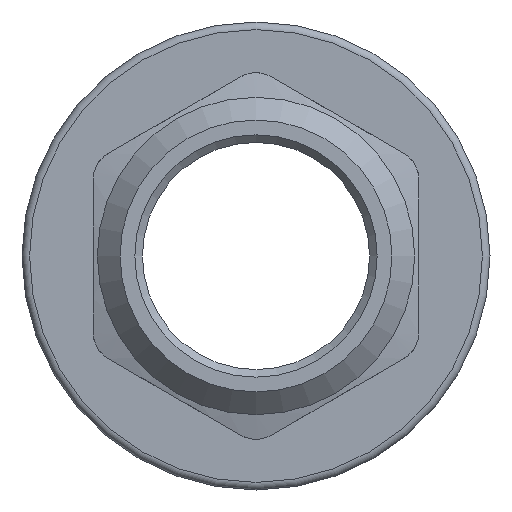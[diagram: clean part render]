
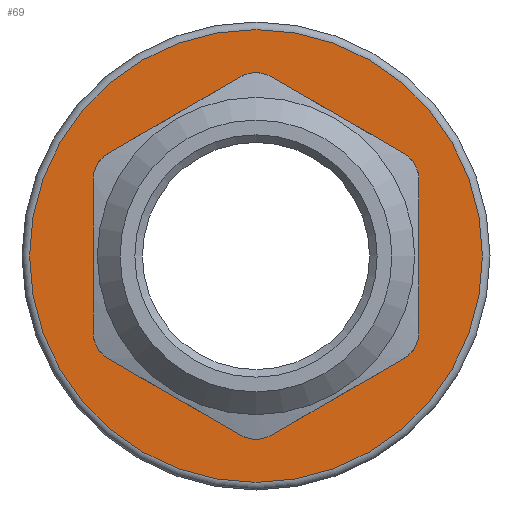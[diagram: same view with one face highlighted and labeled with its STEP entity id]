
A CAD part, front view. The second image highlights one B-rep face of the part: STEP entity #69.
In plain terms, the highlighted planar face has unit normal (0, -1, 0).
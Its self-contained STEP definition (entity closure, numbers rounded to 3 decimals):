
#69=ADVANCED_FACE('',(#312,#314),#316,.F.);
#312=FACE_BOUND('',#313,.T.);
#313=EDGE_LOOP('',(#788));
#314=FACE_BOUND('',#315,.T.);
#315=EDGE_LOOP('',(#789));
#316=PLANE('',#317);
#317=AXIS2_PLACEMENT_3D('',#318,#319,#320);
#318=CARTESIAN_POINT('',(0.,3.2,0.));
#319=DIRECTION('',(0.,1.,0.));
#320=DIRECTION('',(-1.,0.,0.));
#788=ORIENTED_EDGE('',*,*,#939,.F.);
#789=ORIENTED_EDGE('',*,*,#940,.T.);
#939=EDGE_CURVE('',#1085,#1085,#1086,.T.);
#940=EDGE_CURVE('',#1087,#1087,#1088,.T.);
#1085=VERTEX_POINT('',#2337);
#1086=CIRCLE('',#2338,14.95);
#1087=VERTEX_POINT('',#2342);
#1088=CIRCLE('',#2343,10.7);
#2337=CARTESIAN_POINT('',(-14.95,3.2,0.));
#2338=AXIS2_PLACEMENT_3D('',#2339,#2340,#2341);
#2339=CARTESIAN_POINT('',(0.,3.2,0.));
#2340=DIRECTION('',(0.,1.,0.));
#2341=DIRECTION('',(-1.,0.,0.));
#2342=CARTESIAN_POINT('',(-10.7,3.2,0.));
#2343=AXIS2_PLACEMENT_3D('',#2344,#2345,#2346);
#2344=CARTESIAN_POINT('',(0.,3.2,0.));
#2345=DIRECTION('',(0.,1.,0.));
#2346=DIRECTION('',(-1.,0.,0.));
